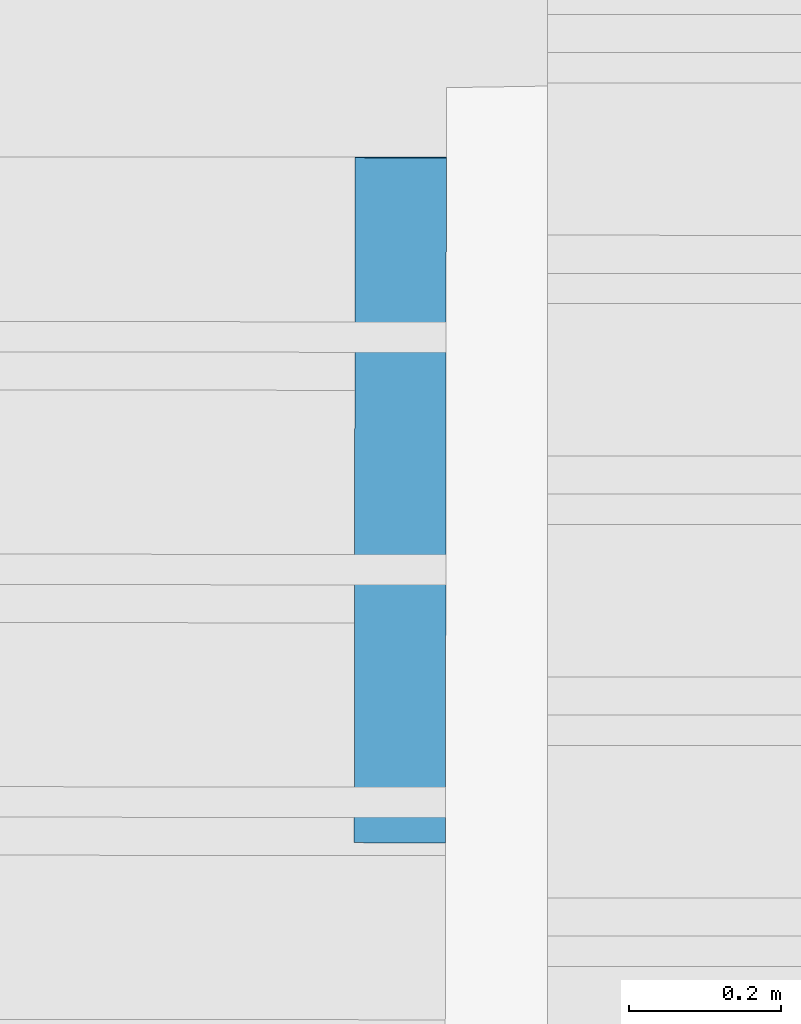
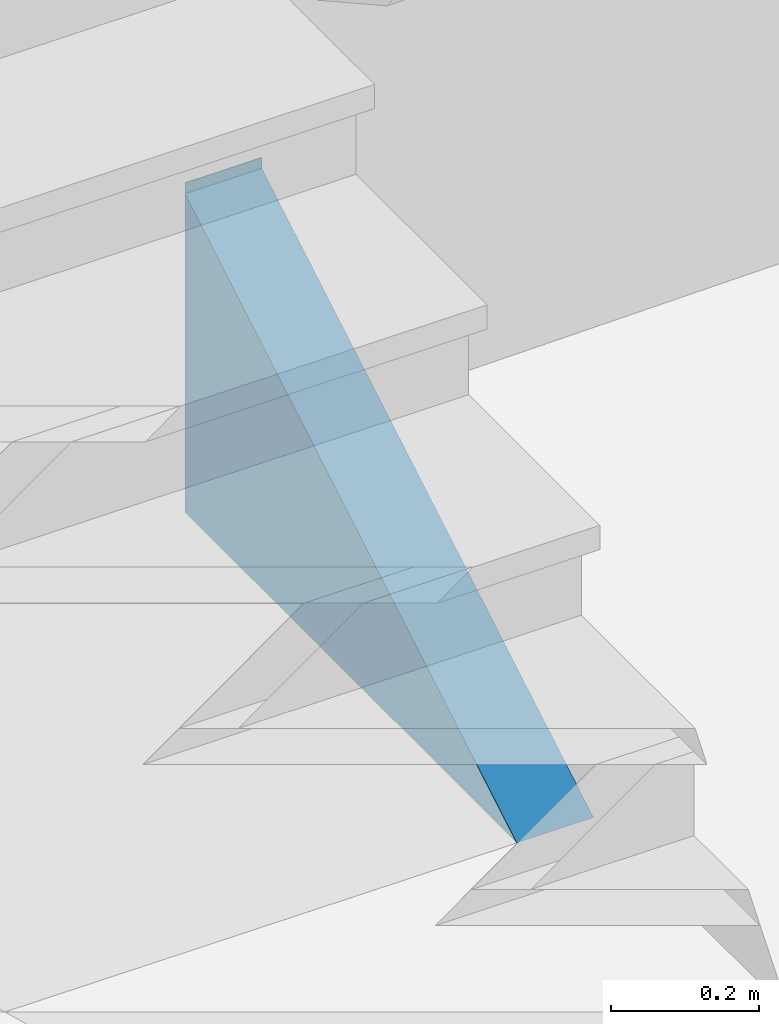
# One storey, part 101 of 196: 1 wall.
"""IFC2X3 building model written with IfcOpenShell, lengths in metres."""

from ifc_helpers import new_model, entity, si_unit, converted_unit, derived_unit, money_unit, direction, frame, origin_with_axes, place, context, subcontext, project, spatial, polyline, outline, extrude, boolean, faceted_brep, material, type_object, element, save


model = new_model("IFC2X3")

# Units and contexts
model_context = context("Model", 3, precision=1e-05, world=origin_with_axes(), true_north=direction((0.0, 1.0)))
body_context = subcontext(model_context, "Body", "Model", "MODEL_VIEW")
ifc_project = project(units=[si_unit("LENGTHUNIT", "METRE"), si_unit("AREAUNIT", "SQUARE_METRE"), si_unit("VOLUMEUNIT", "CUBIC_METRE"), converted_unit("PLANEANGLEUNIT", "DEGREE", entity("IfcPlaneAngleMeasure", 0.0174532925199), si_unit("PLANEANGLEUNIT", "RADIAN"), dimensions=[0, 0, 0, 0, 0, 0, 0]), money_unit("EUR"), converted_unit("TIMEUNIT", "Year", entity("IfcTimeMeasure", 31556926.0), si_unit("TIMEUNIT", "SECOND"), dimensions=[0, 0, 1, 0, 0, 0, 0]), si_unit("MASSUNIT", "GRAM", prefix="KILO"), si_unit("THERMODYNAMICTEMPERATUREUNIT", "DEGREE_CELSIUS"), si_unit("LUMINOUSINTENSITYUNIT", "LUMEN"), si_unit("ENERGYUNIT", "JOULE", prefix="MEGA"), derived_unit("THERMALCONDUCTANCEUNIT", [(si_unit("POWERUNIT", "WATT"), 1), (si_unit("LENGTHUNIT", "METRE"), -1), (si_unit("THERMODYNAMICTEMPERATUREUNIT", "KELVIN"), -1)]), derived_unit("SPECIFICHEATCAPACITYUNIT", [(si_unit("ENERGYUNIT", "JOULE"), 1), (si_unit("MASSUNIT", "GRAM", prefix="KILO"), -1), (si_unit("THERMODYNAMICTEMPERATUREUNIT", "KELVIN"), -1)]), derived_unit("MASSDENSITYUNIT", [(si_unit("MASSUNIT", "GRAM", prefix="KILO"), 1), (si_unit("VOLUMEUNIT", "CUBIC_METRE"), -1)])], contexts=[model_context])

# Site, building, storey
site_placement = place(None, origin_with_axes())
site = spatial("IfcSite", under=ifc_project, at=site_placement, Name="Gelände", CompositionType="ELEMENT")
building_placement = place(site_placement, origin_with_axes())
building = spatial("IfcBuilding", under=site, at=building_placement, Name="Gebäude", CompositionType="ELEMENT")
storey_placement = place(building_placement, frame((0.0, 0.0, -3.0), z_axis=(0.0, 0.0, 1.0), x_axis=(1.0, 0.0, 0.0)))
storey = spatial("IfcBuildingStorey", under=building, at=storey_placement, Name="KELLERGESCHOSS", CompositionType="ELEMENT", Elevation=-3.0)

# Wall
ifc_material = material(Name="05_ALLGEMEIN - TRAGENDE BAUTEILE")
wall_type = type_object("IfcWallType", Name="05_ALLGEMEIN - TRAGENDE BAUTEILE 120", PredefinedType="ELEMENTEDWALL")
wall_placement = place(storey_placement, frame((23.207634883, 22.3778772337, -0.03), z_axis=(0.0, 0.0, 1.0), x_axis=(0.00130389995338, 0.999999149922, 0.0)))
element("IfcWall", 1, at=wall_placement, inside=storey, type_object=wall_type, material=ifc_material, Name="Wand-039", ObjectType="ELEMENTEDWALL", context=body_context, shape_type="CSG", body=[
    boolean("DIFFERENCE", boolean("DIFFERENCE", extrude(outline(polyline([(0.0, 0.0), (1.74149556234, 0.0), (1.74149556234, 0.12), (0.0, 0.12), (0.0, 0.0)])), origin_with_axes(), (0.0, 0.0, 1.0), 0.544739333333), faceted_brep([(1.45272883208, -5.97051652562e-09, 0.482020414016), (1.5291882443, 0.0, 0.526738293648), (1.5291882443, 0.0, 0.544739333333), (0.0, 0.0, 0.544739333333), (0.0, 0.0, 0.0), (0.628561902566, -3.95408150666e-09, 0.0), (0.688134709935, -5.97051652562e-09, 0.0348416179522), (0.76459412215, -5.97051652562e-09, 0.079559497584), (0.841053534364, -5.97051652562e-09, 0.124277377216), (0.917512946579, -5.95485261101e-09, 0.168995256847), (0.993972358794, -5.9548490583e-09, 0.213713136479), (1.07043177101, -5.9548490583e-09, 0.258431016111), (1.14689118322, -5.95485261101e-09, 0.303148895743), (1.22335059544, -5.9548490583e-09, 0.347866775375), (1.29981000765, -5.97051652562e-09, 0.392584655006), (1.37626941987, -5.97051652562e-09, 0.437302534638), (1.45272883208, 0.12, 0.482020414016), (1.5291882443, 0.12, 0.526738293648), (1.5291882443, 0.12, 0.544739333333), (0.0, 0.12, 0.544739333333), (0.0, 0.12, 0.0), (0.628561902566, 0.12, 0.0), (0.688134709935, 0.12, 0.0348416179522), (0.76459412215, 0.12, 0.079559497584), (0.841053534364, 0.12, 0.124277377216), (0.917512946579, 0.12, 0.168995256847), (0.993972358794, 0.12, 0.213713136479), (1.07043177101, 0.12, 0.258431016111), (1.14689118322, 0.12, 0.303148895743), (1.22335059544, 0.12, 0.347866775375), (1.29981000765, 0.12, 0.392584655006), (1.37626941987, 0.12, 0.437302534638)], [[[0, 1, 2, 3, 4, 5, 6, 7, 8, 9, 10, 11, 12, 13, 14, 15]], [[1, 0, 16, 17]], [[18, 2, 1, 17]], [[2, 18, 19, 3]], [[19, 20, 4, 3]], [[21, 5, 4, 20]], [[6, 5, 21, 22]], [[7, 6, 22, 23]], [[8, 7, 23, 24]], [[9, 8, 24, 25]], [[10, 9, 25, 26]], [[11, 10, 26, 27]], [[12, 11, 27, 28]], [[13, 12, 28, 29]], [[14, 13, 29, 30]], [[15, 14, 30, 31]], [[0, 15, 31, 16]], [[22, 21, 20, 19, 18, 17, 16, 31, 30, 29, 28, 27, 26, 25, 24, 23]]])), faceted_brep([(1.52997005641, 0.12, 0.544739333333), (1.53010881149, 0.0, 0.544739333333), (1.74149556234, 0.0, 0.544739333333), (1.74149556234, 0.12, 0.544739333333), (1.53010881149, 0.0, 0.0), (1.52997005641, 0.12, 0.0), (1.74149556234, 0.0, 0.0), (1.74149556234, 0.12, 0.0)], [[[0, 1, 2, 3]], [[4, 1, 0, 5]], [[1, 4, 6, 2]], [[2, 6, 7, 3]], [[5, 0, 3, 7]], [[4, 5, 7, 6]]])),
])

save(model, "model.ifc")
